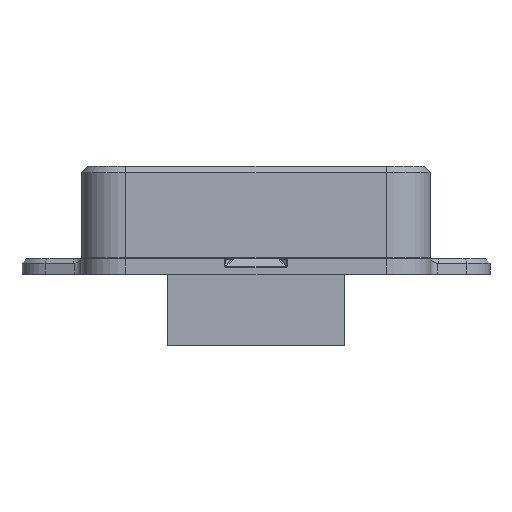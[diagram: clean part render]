
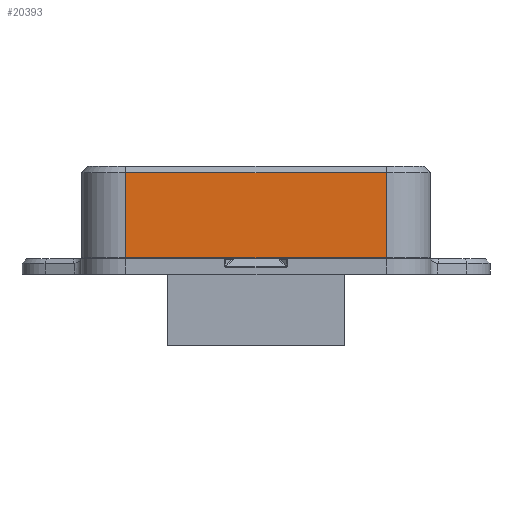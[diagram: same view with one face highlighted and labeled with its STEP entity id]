
A CAD part, front view. The second image highlights one B-rep face of the part: STEP entity #20393.
In plain terms, the highlighted planar face has unit normal (0, -1, 0) as drawn and (0, 0, 1) by its records, which use the part's own axes.
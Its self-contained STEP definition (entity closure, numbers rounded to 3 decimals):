
#198 = ORIENTED_EDGE ( 'NONE', *, *, #46158, .F. ) ;
#772 = ORIENTED_EDGE ( 'NONE', *, *, #1212, .T. ) ;
#820 = CARTESIAN_POINT ( 'NONE',  ( 16.8, 63.898, 22.45 ) ) ;
#1212 = EDGE_CURVE ( 'NONE', #63351, #37128, #6110, .T. ) ;
#2191 = CARTESIAN_POINT ( 'NONE',  ( 16.8, 1.1, 22.45 ) ) ;
#2736 = CARTESIAN_POINT ( 'NONE',  ( 16.8, -9.9, 22.45 ) ) ;
#4027 = LINE ( 'NONE', #71053, #77111 ) ;
#4969 = CARTESIAN_POINT ( 'NONE',  ( -16.8, -9.9, 22.45 ) ) ;
#6110 = LINE ( 'NONE', #53851, #41793 ) ;
#6870 = DIRECTION ( 'NONE',  ( 0., -1., 0. ) ) ;
#9754 = CARTESIAN_POINT ( 'NONE',  ( 16.8, 63.898, 22.45 ) ) ;
#17156 = CARTESIAN_POINT ( 'NONE',  ( 16.8, 1.1, 22.45 ) ) ;
#20393 = ADVANCED_FACE ( 'NONE', ( #27377 ), #64678, .T. ) ;
#20670 = EDGE_CURVE ( 'NONE', #48287, #70593, #32889, .T. ) ;
#21916 = VECTOR ( 'NONE', #47216, 1000. ) ;
#22177 = DIRECTION ( 'NONE',  ( 0., 0., 1. ) ) ;
#22755 = LINE ( 'NONE', #17156, #21916 ) ;
#23373 = DIRECTION ( 'NONE',  ( 0., -1., 0. ) ) ;
#27377 = FACE_OUTER_BOUND ( 'NONE', #59436, .T. ) ;
#28098 = DIRECTION ( 'NONE',  ( -1., 0., 0. ) ) ;
#30726 = ORIENTED_EDGE ( 'NONE', *, *, #64518, .T. ) ;
#32728 = CARTESIAN_POINT ( 'NONE',  ( -16.8, 1.1, 22.45 ) ) ;
#32889 = LINE ( 'NONE', #820, #75894 ) ;
#37128 = VERTEX_POINT ( 'NONE', #4969 ) ;
#41793 = VECTOR ( 'NONE', #23373, 1000. ) ;
#46158 = EDGE_CURVE ( 'NONE', #70593, #37128, #4027, .T. ) ;
#46995 = DIRECTION ( 'NONE',  ( 1., 0., 0. ) ) ;
#47216 = DIRECTION ( 'NONE',  ( -1., 0., 0. ) ) ;
#48287 = VERTEX_POINT ( 'NONE', #2191 ) ;
#53851 = CARTESIAN_POINT ( 'NONE',  ( -16.8, 63.898, 22.45 ) ) ;
#59436 = EDGE_LOOP ( 'NONE', ( #74455, #30726, #772, #198 ) ) ;
#60370 = AXIS2_PLACEMENT_3D ( 'NONE', #9754, #22177, #46995 ) ;
#63351 = VERTEX_POINT ( 'NONE', #32728 ) ;
#64518 = EDGE_CURVE ( 'NONE', #48287, #63351, #22755, .T. ) ;
#64678 = PLANE ( 'NONE',  #60370 ) ;
#70593 = VERTEX_POINT ( 'NONE', #2736 ) ;
#71053 = CARTESIAN_POINT ( 'NONE',  ( 16.8, -9.9, 22.45 ) ) ;
#74455 = ORIENTED_EDGE ( 'NONE', *, *, #20670, .F. ) ;
#75894 = VECTOR ( 'NONE', #6870, 1000. ) ;
#77111 = VECTOR ( 'NONE', #28098, 1000. ) ;
